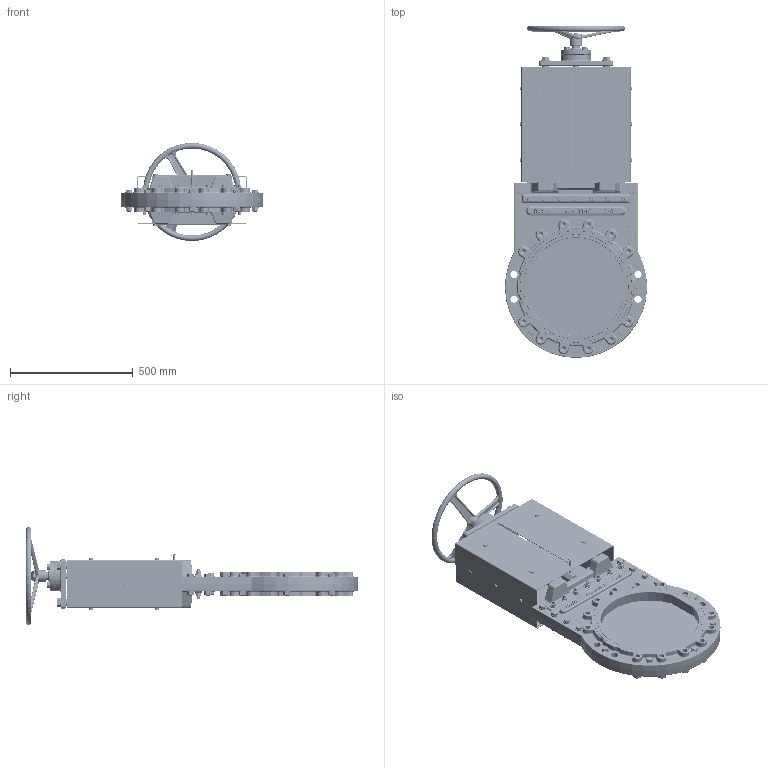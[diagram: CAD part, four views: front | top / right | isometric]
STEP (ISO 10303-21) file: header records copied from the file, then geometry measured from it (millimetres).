
FILE_DESCRIPTION(/* description */ (''),/* implementation_level */ '2;1');
FILE_NAME(/* name */ 'Non-rising stem knife gate valve with handwheel DN400-10带护罩.stp',/* time_stamp */ '2025-04-07T13:45:28+08:00',/* author */ (''),/* organization */ (''),/* preprocessor_version */ 'ST-DEVELOPER v15',/* originating_system */ 'SIEMENS PLM Software NX 10.0',/* authorisation */ '');
FILE_SCHEMA (('AP203_CONFIGURATION_CONTROLLED_3D_DESIGN_OF_MECHANICAL_PARTS_AND_ASSEMBLIES_MIM_LF { 1 0 10303 403 2 1 2}'));
Products named in the file (1): Admi27C0C158bs7v
Bounding box: 579.93 x 1352.49 x 399.98 mm (x, y, z)
Volume: 24629386.2 mm3; surface area: 3225366.1 mm2
Topology: 1 solids, 63 shells, 3829 faces, 9031 edges, 5592 vertices
Faces by surface type: plane 1444, bspline 806, cylinder 741, cone 447, torus 236, sphere 80, extrusion 75
Full cylindrical faces by diameter (mm): 6 x3, 8 x13, 8.4 x12, 8.5 x8, 9 x1, 9.5 x12, 10 x9, 10.5 x9, 11 x8, 11.053 x4, 11.4 x6, 11.5 x1, 12 x36, 12.5 x14, 13 x18, 15.053 x15, 15.6 x9, 16 x42, 17 x28, 17.2 x4, 17.5 x6, 19.053 x4, 20 x16, 21 x36, 22 x29, 23 x1, 24 x18, 27 x4, 28 x4, 29 x4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
Entity records: 131633 total; most frequent: CARTESIAN_POINT 55586, ORIENTED_EDGE 15766, DIRECTION 13487, EDGE_CURVE 7883, AXIS2_PLACEMENT_3D 5581, VERTEX_POINT 5282, EDGE_LOOP 5079, ADVANCED_FACE 3829
